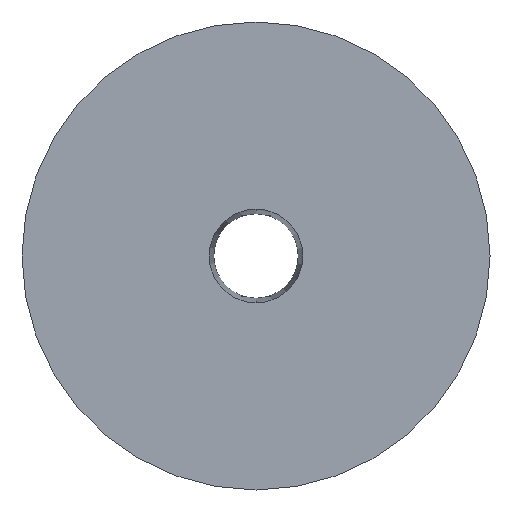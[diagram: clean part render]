
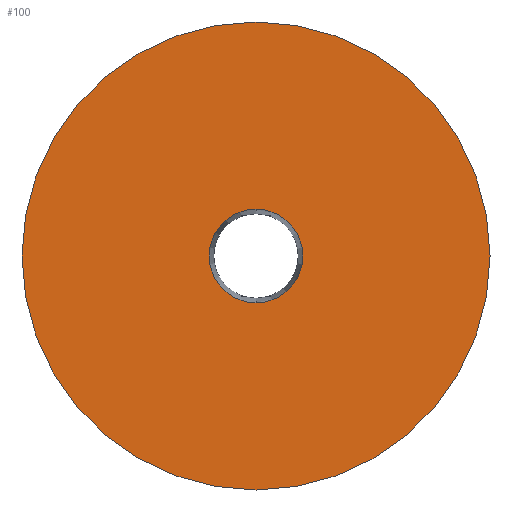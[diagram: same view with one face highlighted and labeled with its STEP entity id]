
A CAD part, front view. The second image highlights one B-rep face of the part: STEP entity #100.
In plain terms, the highlighted planar face has unit normal (0, -1, 0).
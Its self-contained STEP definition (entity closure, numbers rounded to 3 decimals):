
#16 = CARTESIAN_POINT ( 'NONE',  ( 0., -2.96, -3. ) ) ;
#18 = DIRECTION ( 'NONE',  ( 0., 0., 1. ) ) ;
#26 = DIRECTION ( 'NONE',  ( 0., 0., 1. ) ) ;
#33 = EDGE_CURVE ( 'NONE', #120, #70, #242, .T. ) ;
#34 = CIRCLE ( 'NONE', #255, 3. ) ;
#35 = EDGE_CURVE ( 'NONE', #54, #157, #66, .T. ) ;
#38 = DIRECTION ( 'NONE',  ( 0., 1., 0. ) ) ;
#39 = CARTESIAN_POINT ( 'NONE',  ( 3., -2.96, 0. ) ) ;
#42 = PLANE ( 'NONE',  #79 ) ;
#47 = DIRECTION ( 'NONE',  ( 0., 0., 1. ) ) ;
#49 = CARTESIAN_POINT ( 'NONE',  ( 0., -2.96, 0. ) ) ;
#54 = VERTEX_POINT ( 'NONE', #245 ) ;
#59 = AXIS2_PLACEMENT_3D ( 'NONE', #187, #81, #102 ) ;
#66 = CIRCLE ( 'NONE', #59, 15. ) ;
#69 = CIRCLE ( 'NONE', #232, 15. ) ;
#70 = VERTEX_POINT ( 'NONE', #163 ) ;
#79 = AXIS2_PLACEMENT_3D ( 'NONE', #39, #38, #18 ) ;
#81 = DIRECTION ( 'NONE',  ( 0., 1., 0. ) ) ;
#89 = DIRECTION ( 'NONE',  ( 0., 1., 0. ) ) ;
#93 = EDGE_LOOP ( 'NONE', ( #262, #254 ) ) ;
#100 = ADVANCED_FACE ( 'NONE', ( #225, #144 ), #42, .F. ) ;
#102 = DIRECTION ( 'NONE',  ( 0., 0., 1. ) ) ;
#104 = CARTESIAN_POINT ( 'NONE',  ( 0., -2.96, 0. ) ) ;
#120 = VERTEX_POINT ( 'NONE', #16 ) ;
#122 = DIRECTION ( 'NONE',  ( 0., 1., 0. ) ) ;
#126 = CARTESIAN_POINT ( 'NONE',  ( 0., -2.96, 15. ) ) ;
#144 = FACE_BOUND ( 'NONE', #93, .T. ) ;
#148 = EDGE_CURVE ( 'NONE', #70, #120, #34, .T. ) ;
#154 = DIRECTION ( 'NONE',  ( 0., 1., 0. ) ) ;
#157 = VERTEX_POINT ( 'NONE', #126 ) ;
#158 = ORIENTED_EDGE ( 'NONE', *, *, #185, .F. ) ;
#163 = CARTESIAN_POINT ( 'NONE',  ( 0., -2.96, 3. ) ) ;
#177 = AXIS2_PLACEMENT_3D ( 'NONE', #104, #122, #247 ) ;
#185 = EDGE_CURVE ( 'NONE', #157, #54, #69, .T. ) ;
#187 = CARTESIAN_POINT ( 'NONE',  ( 0., -2.96, 0. ) ) ;
#202 = EDGE_LOOP ( 'NONE', ( #158, #205 ) ) ;
#205 = ORIENTED_EDGE ( 'NONE', *, *, #35, .F. ) ;
#225 = FACE_OUTER_BOUND ( 'NONE', #202, .T. ) ;
#232 = AXIS2_PLACEMENT_3D ( 'NONE', #233, #89, #26 ) ;
#233 = CARTESIAN_POINT ( 'NONE',  ( 0., -2.96, 0. ) ) ;
#242 = CIRCLE ( 'NONE', #177, 3. ) ;
#245 = CARTESIAN_POINT ( 'NONE',  ( 0., -2.96, -15. ) ) ;
#247 = DIRECTION ( 'NONE',  ( 0., 0., 1. ) ) ;
#254 = ORIENTED_EDGE ( 'NONE', *, *, #148, .T. ) ;
#255 = AXIS2_PLACEMENT_3D ( 'NONE', #49, #154, #47 ) ;
#262 = ORIENTED_EDGE ( 'NONE', *, *, #33, .T. ) ;
